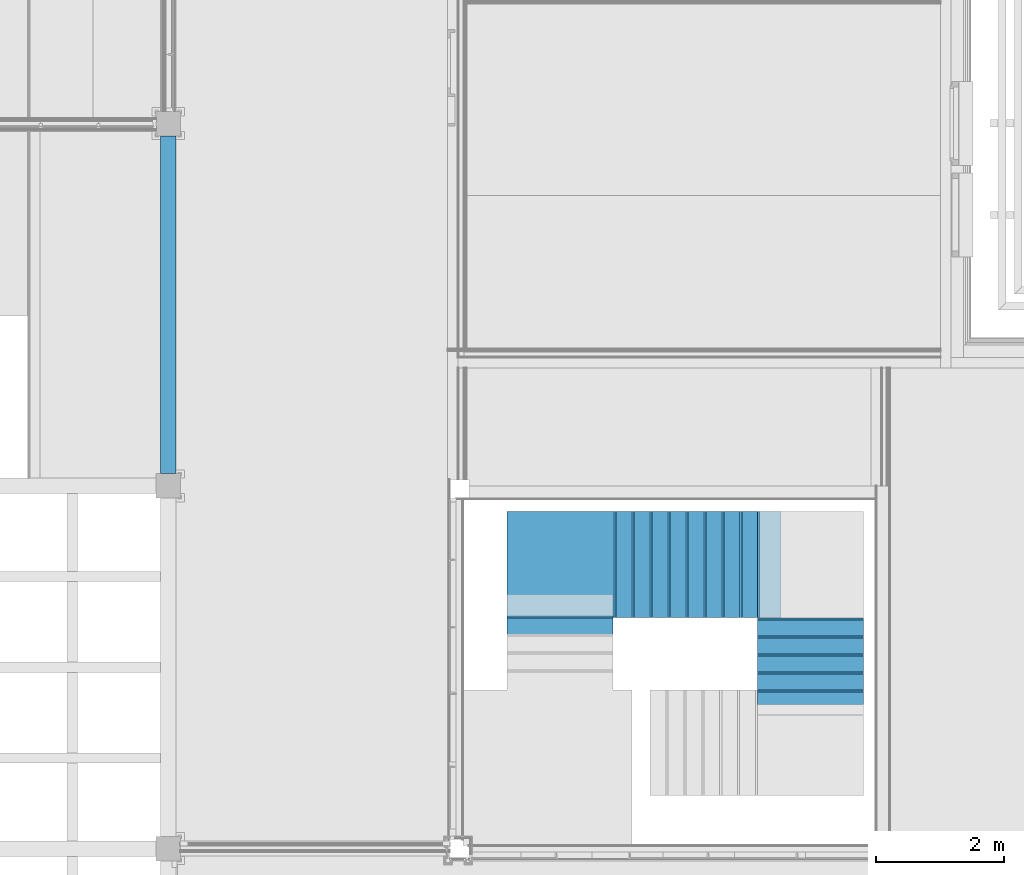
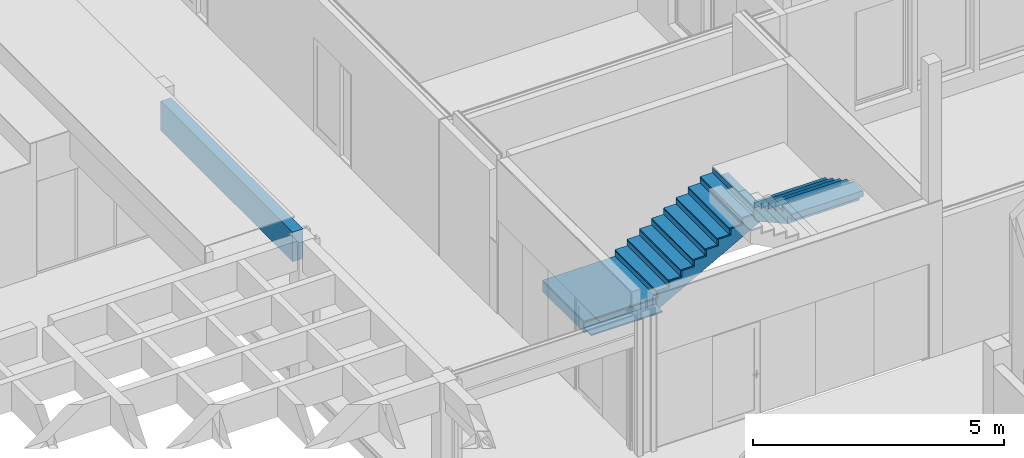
# One storey, part 40 of 139: 32 members, 1 beam, 1 element without a shape of its own.
"""IFC2X3 building model written with IfcOpenShell, lengths in millimetres."""

from ifc_helpers import new_model, entity, si_unit, converted_unit, derived_unit, money_unit, direction, frame, origin_with_axes, place, context, subcontext, project, spatial, faceted_brep, material, type_object, element, aggregate, save


model = new_model("IFC2X3")

# Units and contexts
model_context = context("Model", 3, precision=0.01, world=origin_with_axes(), true_north=direction((0.0, 1.0)))
body_context = subcontext(model_context, "Body", "Model", "MODEL_VIEW")
ifc_project = project(units=[si_unit("LENGTHUNIT", "METRE", prefix="MILLI"), si_unit("AREAUNIT", "SQUARE_METRE"), si_unit("VOLUMEUNIT", "CUBIC_METRE"), converted_unit("PLANEANGLEUNIT", "DEGREE", entity("IfcPlaneAngleMeasure", 0.0174532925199), si_unit("PLANEANGLEUNIT", "RADIAN"), dimensions=[0, 0, 0, 0, 0, 0, 0]), money_unit("EUR"), converted_unit("TIMEUNIT", "Year", entity("IfcTimeMeasure", 31556926.0), si_unit("TIMEUNIT", "SECOND"), dimensions=[0, 0, 1, 0, 0, 0, 0]), si_unit("MASSUNIT", "GRAM", prefix="KILO"), si_unit("THERMODYNAMICTEMPERATUREUNIT", "DEGREE_CELSIUS"), si_unit("LUMINOUSINTENSITYUNIT", "LUMEN"), si_unit("ENERGYUNIT", "JOULE", prefix="MEGA"), derived_unit("THERMALCONDUCTANCEUNIT", [(si_unit("POWERUNIT", "WATT"), 1), (si_unit("LENGTHUNIT", "METRE"), -1), (si_unit("THERMODYNAMICTEMPERATUREUNIT", "KELVIN"), -1)]), derived_unit("SPECIFICHEATCAPACITYUNIT", [(si_unit("ENERGYUNIT", "JOULE"), 1), (si_unit("MASSUNIT", "GRAM", prefix="KILO"), -1), (si_unit("THERMODYNAMICTEMPERATUREUNIT", "KELVIN"), -1)]), derived_unit("MASSDENSITYUNIT", [(si_unit("MASSUNIT", "GRAM", prefix="KILO"), 1), (si_unit("VOLUMEUNIT", "CUBIC_METRE"), -1)])], contexts=[model_context])

# Site, building, storey
site_placement = place(None, origin_with_axes())
site = spatial("IfcSite", under=ifc_project, at=site_placement, Name="Kolde pst 67a", CompositionType="ELEMENT")
building_placement = place(site_placement, origin_with_axes())
building = spatial("IfcBuilding", under=site, at=building_placement, Name="Riigigümnaasium", CompositionType="ELEMENT")
storey_placement = place(building_placement, frame((0.0, 0.0, 4600.0), z_axis=(0.0, 0.0, 1.0), x_axis=(1.0, 0.0, 0.0)))
storey = spatial("IfcBuildingStorey", under=building, at=storey_placement, Name="2. korrus", CompositionType="ELEMENT", Elevation=4600.0)

# Stair, members
stair_placement = place(storey_placement, frame((55074.9941194, 31162.4614213, 0.0), z_axis=(0.0, 0.0, 1.0), x_axis=(1.0, 0.0, 0.0)))
stair = element("IfcStair", 1, at=stair_placement, inside=storey, Name="TREPP", ShapeType="NOTDEFINED")
ifc_material_1 = material(Name="_KANDETARIND - raudbetoon C25/30 vastavalt EK osale")
member_type_1 = type_object("IfcMemberType", Name="IfcMember", PredefinedType="USERDEFINED")
member_1_placement = place(stair_placement, origin_with_axes())
member_1 = element("IfcMember", 2, at=member_1_placement, type_object=member_type_1, material=ifc_material_1, Name="TM KONSTRUKTSIOON - 012", ObjectType="Stair Structure", context=body_context, shape_type="Brep", body=[
    faceted_brep([(109.989916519, 1222.51927635, 593.0), (109.989916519, 2872.51929629, 593.0), (-1557.99539413, 2872.51929629, 593.0), (-1558.15562166, 1247.00698667, 593.0), (89.8080152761, 1247.00698667, 593.0), (89.8065817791, 1222.51927635, 593.0), (109.989916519, 2872.51929629, 343.0), (109.989916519, 1222.51927635, 343.0), (-1557.99539413, 2872.51929629, 343.0), (-1558.15877884, 1215.0069978, 436.75), (-1558.15562166, 1247.00698667, 436.75), (-1558.15879981, 1215.0069978, 343.0), (89.8080152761, 1247.00698667, 436.75), (89.8065817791, 1222.51927635, 436.75), (89.8065787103, 1222.51927635, 343.0), (89.8061226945, 1215.0069978, 343.0), (89.8061420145, 1215.0069978, 436.75)], [[[0, 1, 2, 3, 4, 5]], [[6, 1, 0, 7]], [[1, 6, 8, 2]], [[9, 10, 3, 2, 8, 11]], [[12, 4, 3, 10]], [[13, 5, 4, 12]], [[7, 0, 5, 13, 14]], [[6, 7, 14, 15, 11, 8]], [[9, 16, 13, 12, 10]], [[15, 16, 9, 11]], [[14, 13, 16, 15]]]),
])
member_2_placement = place(stair_placement, origin_with_axes())
member_2 = element("IfcMember", 3, at=member_2_placement, type_object=member_type_1, material=ifc_material_1, Name="TT KONSTRUKTSIOON - 016", ObjectType="Stair Structure", context=body_context, shape_type="Brep", body=[
    faceted_brep([(2349.98991721, 1222.51929532, 1749.25), (2349.98991721, 2872.51928463, 1749.25), (2349.98991721, 2872.51928463, 1843.0), (2349.98991721, 1222.51928463, 1843.0), (2716.76334378, 1222.51929532, 1749.25), (2716.76334378, 2872.51928463, 1749.25), (2349.98991721, 2872.51928463, 1544.57732718), (2256.65658388, 2872.51928463, 1492.49399385), (2163.32325055, 2872.51928463, 1440.41066052), (2069.98991721, 2872.51928463, 1388.32732718), (1976.65658388, 2872.51928463, 1336.24399385), (1883.32325055, 2872.51928463, 1284.16066052), (1789.98991721, 2872.51928463, 1232.07732718), (1696.65658388, 2872.51928463, 1179.99399385), (1603.32325055, 2872.51928463, 1127.91066052), (1509.98991721, 2872.51928463, 1075.82732718), (1416.65658388, 2872.51928463, 1023.74399385), (1323.32325055, 2872.51928463, 971.660660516), (1229.98991721, 2872.51928463, 919.577327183), (1136.65658388, 2872.51928463, 867.49399385), (1043.32325055, 2872.51928463, 815.410660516), (949.989917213, 2872.51928463, 763.327327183), (856.656583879, 2872.51928463, 711.24399385), (763.323250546, 2872.51928463, 659.160660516), (669.989917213, 2872.51928463, 607.077327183), (576.656583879, 2872.51928463, 554.99399385), (483.323250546, 2872.51928463, 502.910660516), (389.989917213, 2872.51928463, 450.827327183), (296.656583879, 2872.51929629, 398.74399385), (203.323250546, 2872.51929629, 346.660660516), (196.7633469, 2872.51929629, 343.0), (109.989917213, 2872.51929439, 343.0), (109.989917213, 2872.51928463, 593.0), (141.989917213, 2872.51928463, 593.0), (141.989917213, 2872.51928463, 749.25), (421.989917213, 2872.51928463, 749.25), (421.989917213, 2872.51928463, 905.5), (701.989917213, 2872.51928463, 905.5), (701.989917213, 2872.51928463, 1061.75), (981.989917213, 2872.51928463, 1061.75), (981.989917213, 2872.51928463, 1218.0), (1261.98991721, 2872.51928463, 1218.0), (1261.98991721, 2872.51928463, 1374.25), (1541.98991721, 2872.51928463, 1374.25), (1541.98991721, 2872.51928463, 1530.5), (1821.98991721, 2872.51928463, 1530.5), (1821.98991721, 2872.51928463, 1686.75), (2101.98991721, 2872.51928463, 1686.75), (2101.98991721, 2872.51928463, 1843.0), (2101.98991721, 1222.51928463, 1843.0), (2101.98991721, 1222.51928463, 1686.75), (1821.98991721, 1222.51928463, 1686.75), (1821.98991721, 1222.51928463, 1530.5), (1541.98991721, 1222.51928463, 1530.5), (1541.98991721, 1222.51928463, 1374.25), (1261.98991721, 1222.51928463, 1374.25), (1261.98991721, 1222.51928463, 1218.0), (981.989917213, 1222.51928463, 1218.0), (981.989917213, 1222.51928463, 1061.75), (701.989917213, 1222.51928463, 1061.75), (701.989917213, 1222.51928463, 905.5), (421.989917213, 1222.51928463, 905.5), (421.989917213, 1222.51928463, 749.25), (141.989917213, 1222.51928463, 749.25), (141.989917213, 1222.51928463, 593.0), (109.989917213, 1222.51928463, 593.0), (109.989917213, 1222.51927769, 343.0), (196.7633469, 1222.51927635, 343.0), (203.323250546, 1222.51927635, 346.660660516), (296.656583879, 1222.51927635, 398.74399385), (389.989917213, 1222.51927635, 450.827327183), (483.323250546, 1222.51928463, 502.910660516), (576.656583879, 1222.51928463, 554.99399385), (669.989917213, 1222.51928463, 607.077327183), (763.323250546, 1222.51928463, 659.160660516), (856.656583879, 1222.51928463, 711.24399385), (949.989917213, 1222.51928463, 763.327327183), (1043.32325055, 1222.51928463, 815.410660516), (1136.65658388, 1222.51928463, 867.49399385), (1229.98991721, 1222.51928463, 919.577327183), (1323.32325055, 1222.51928463, 971.660660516), (1416.65658388, 1222.51928463, 1023.74399385), (1509.98991721, 1222.51928463, 1075.82732718), (1603.32325055, 1222.51928463, 1127.91066052), (1696.65658388, 1222.51928463, 1179.99399385), (1789.98991721, 1222.51928463, 1232.07732718), (1883.32325055, 1222.51928463, 1284.16066052), (1976.65658388, 1222.51928463, 1336.24399385), (2069.98991721, 1222.51928463, 1388.32732718), (2163.32325055, 1222.51928463, 1440.41066052), (2256.65658388, 1222.51928463, 1492.49399385), (2349.98991721, 1222.51929532, 1544.57732718)], [[[0, 1, 2, 3]], [[1, 0, 4, 5]], [[6, 7, 8, 9, 10, 11, 12, 13, 14, 15, 16, 17, 18, 19, 20, 21, 22, 23, 24, 25, 26, 27, 28, 29, 30, 31, 32, 33, 34, 35, 36, 37, 38, 39, 40, 41, 42, 43, 44, 45, 46, 47, 48, 2, 1, 5]], [[3, 2, 48, 49]], [[0, 3, 49, 50, 51, 52, 53, 54, 55, 56, 57, 58, 59, 60, 61, 62, 63, 64, 65, 66, 67, 68, 69, 70, 71, 72, 73, 74, 75, 76, 77, 78, 79, 80, 81, 82, 83, 84, 85, 86, 87, 88, 89, 90, 91, 4]], [[91, 90, 7, 6, 5, 4]], [[89, 8, 7, 90]], [[88, 9, 8, 89]], [[87, 10, 9, 88]], [[86, 11, 10, 87]], [[85, 12, 11, 86]], [[84, 13, 12, 85]], [[83, 14, 13, 84]], [[82, 15, 14, 83]], [[81, 16, 15, 82]], [[80, 17, 16, 81]], [[79, 18, 17, 80]], [[78, 19, 18, 79]], [[77, 20, 19, 78]], [[76, 21, 20, 77]], [[75, 22, 21, 76]], [[74, 23, 22, 75]], [[73, 24, 23, 74]], [[72, 25, 24, 73]], [[71, 26, 25, 72]], [[70, 27, 26, 71]], [[69, 28, 27, 70]], [[68, 29, 28, 69]], [[67, 30, 29, 68]], [[66, 31, 30, 67]], [[31, 66, 65, 32]], [[65, 64, 33, 32]], [[33, 64, 63, 34]], [[34, 63, 62, 35]], [[35, 62, 61, 36]], [[36, 61, 60, 37]], [[37, 60, 59, 38]], [[38, 59, 58, 39]], [[39, 58, 57, 40]], [[40, 57, 56, 41]], [[41, 56, 55, 42]], [[42, 55, 54, 43]], [[43, 54, 53, 44]], [[44, 53, 52, 45]], [[45, 52, 51, 46]], [[46, 51, 50, 47]], [[47, 50, 49, 48]]]),
])
member_3_placement = place(stair_placement, origin_with_axes())
member_3 = element("IfcMember", 4, at=member_3_placement, type_object=member_type_1, material=ifc_material_1, Name="TT KONSTRUKTSIOON - 017", ObjectType="Stair Structure", context=body_context, shape_type="Brep", body=[
    faceted_brep([(3999.95412159, 343.0, 2468.0), (2349.98991721, 343.0, 2468.0), (2349.98991721, 343.0, 2624.25), (3999.95412159, 343.0, 2624.25), (3999.95412159, 623.0, 2468.0), (2349.98991721, 623.0, 2468.0), (2349.98990534, 94.9999971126, 2624.25), (2349.98991721, 623.0, 2311.75), (2349.98991721, 903.0, 2311.75), (2349.98991721, 903.0, 2155.5), (2349.98991721, 1183.0, 2155.5), (2349.98991721, 1183.0, 1999.25), (2349.98991721, 1215.0, 1999.25), (2349.98991721, 1215.0, 1749.25), (2349.98991721, 1117.96588807, 1749.25), (2349.98991721, 1028.33333333, 1799.26816671), (2349.98991721, 935.0, 1851.35150004), (2349.98991721, 841.666666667, 1903.43483337), (2349.98991721, 748.333333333, 1955.51816671), (2349.98991721, 655.0, 2007.60150004), (2349.98991721, 561.666666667, 2059.68483337), (2349.98991721, 468.333333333, 2111.76816671), (2349.98991721, 375.0, 2163.85150004), (2349.98991721, 281.666666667, 2215.93483337), (2349.98991721, 188.333333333, 2268.01816671), (2349.98991479, 94.9999971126, 2320.10150165), (2349.98991479, -135.00000579, 2448.44971756), (2349.98991214, -135.00000579, 2630.5), (2349.98991479, -295.000014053, 2630.5), (2349.98991479, -295.000014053, 2780.5), (2349.98990398, 63.0000026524, 2780.5), (2349.98990398, 63.0000026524, 2624.25), (3999.95411669, 94.9999971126, 2624.25), (3999.95411613, 63.0000026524, 2624.25), (3999.95412159, 94.9999971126, 2320.10150165), (3999.95412159, 188.333333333, 2268.01816671), (3999.95412159, 281.666666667, 2215.93483337), (3999.95412159, 375.0, 2163.85150004), (3999.95412159, 468.333333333, 2111.76816671), (3999.95412159, 561.666666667, 2059.68483337), (3999.95412159, 655.0, 2007.60150004), (3999.95412159, 748.333333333, 1955.51816671), (3999.95412159, 841.666666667, 1903.43483337), (3999.95412159, 935.0, 1851.35150004), (3999.95413168, 1028.33333333, 1799.26816671), (3999.95413168, 1117.96588807, 1749.25), (3999.95412988, 1215.0, 1749.25), (3999.95412159, 1215.0, 1999.25), (3999.95412159, 1183.0, 1999.25), (3999.95412159, 1183.0, 2155.5), (3999.95412159, 903.0, 2155.5), (3999.95412159, 903.0, 2311.75), (3999.95412159, 623.0, 2311.75), (3999.95411613, 63.0000026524, 2780.5), (3999.95412159, -295.000014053, 2780.5), (3999.95412159, -295.000014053, 2630.5), (3999.95412025, -135.00000579, 2630.5), (3999.95412159, -135.00000579, 2448.44971756)], [[[0, 1, 2, 3]], [[0, 4, 5, 1]], [[6, 2, 1, 5, 7, 8, 9, 10, 11, 12, 13, 14, 15, 16, 17, 18, 19, 20, 21, 22, 23, 24, 25, 26, 27, 28, 29, 30, 31]], [[32, 3, 2, 6, 31, 33]], [[34, 35, 36, 37, 38, 39, 40, 41, 42, 43, 44, 45, 46, 47, 48, 49, 50, 51, 52, 4, 0, 3, 32, 33, 53, 54, 55, 56, 57]], [[52, 7, 5, 4]], [[52, 51, 8, 7]], [[50, 9, 8, 51]], [[50, 49, 10, 9]], [[48, 11, 10, 49]], [[12, 11, 48, 47]], [[46, 13, 12, 47]], [[13, 46, 45, 14]], [[14, 45, 44, 15]], [[15, 44, 43, 16]], [[16, 43, 42, 17]], [[17, 42, 41, 18]], [[18, 41, 40, 19]], [[19, 40, 39, 20]], [[20, 39, 38, 21]], [[21, 38, 37, 22]], [[22, 37, 36, 23]], [[23, 36, 35, 24]], [[25, 24, 35, 34, 57, 26]], [[26, 57, 56, 27]], [[27, 56, 55, 28]], [[29, 28, 55, 54]], [[29, 54, 53, 30]], [[33, 31, 30, 53]]]),
])
ifc_material_2 = material(Name="_VIIMISTLUSKIHT - viimistlus vastavalt SA osale")
member_type_2 = type_object("IfcMemberType", Name="IfcMember", PredefinedType="USERDEFINED")
member_4_placement = place(stair_placement, frame((-735.193427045, 1215.0069978, 593.0), z_axis=(0.0, 0.0, 1.0), x_axis=(1.0, 0.0, 0.0)))
member_4 = element("IfcMember", 5, at=member_4_placement, type_object=member_type_2, material=ifc_material_2, Name="SL RISER - 012", ObjectType="Stair Riser", context=body_context, shape_type="Brep", body=[
    faceted_brep([(824.999560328, 0.0, 0.0), (825.001433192, 32.0, 0.0), (-822.962217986, 32.0, 0.0), (-822.965372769, 0.0, 0.0), (824.999560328, 0.0, -124.25), (825.001433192, 32.0, -124.25), (-822.962217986, 32.0, -124.25), (-822.965372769, 0.0, -124.25)], [[[0, 1, 2, 3]], [[0, 4, 5, 1]], [[1, 5, 6, 2]], [[3, 2, 6, 7]], [[4, 0, 3, 7]], [[5, 4, 7, 6]]]),
])
member_5_placement = place(stair_placement, frame((109.989917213, 2047.51928463, 749.25), z_axis=(0.0, 0.0, 1.0), x_axis=(0.0, -1.0, 0.0)))
member_5 = element("IfcMember", 6, at=member_5_placement, type_object=member_type_2, material=ifc_material_2, Name="TV TÕUS - 113", ObjectType="Stair Riser", context=body_context, shape_type="Brep", body=[
    faceted_brep([(825.0, 0.0, 0.0), (825.0, 32.0, 0.0), (-825.0, 32.0, 0.0), (-825.0, 0.0, 0.0), (825.0, 0.0, -124.25), (825.0, 32.0, -124.25), (-825.0, 32.0, -124.25), (-825.0, 0.0, -124.25)], [[[0, 1, 2, 3]], [[0, 4, 5, 1]], [[1, 5, 6, 2]], [[3, 2, 6, 7]], [[4, 0, 3, 7]], [[5, 4, 7, 6]]]),
])
member_6_placement = place(stair_placement, frame((389.989917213, 2047.51928463, 905.5), z_axis=(0.0, 0.0, 1.0), x_axis=(0.0, -1.0, 0.0)))
member_6 = element("IfcMember", 7, at=member_6_placement, type_object=member_type_2, material=ifc_material_2, Name="TV TÕUS - 114", ObjectType="Stair Riser", context=body_context, shape_type="Brep", body=[
    faceted_brep([(825.0, 0.0, 0.0), (825.0, 32.0, 0.0), (-825.0, 32.0, 0.0), (-825.0, 0.0, 0.0), (825.0, 0.0, -124.25), (825.0, 32.0, -124.25), (-825.0, 32.0, -124.25), (-825.0, 0.0, -124.25)], [[[0, 1, 2, 3]], [[0, 4, 5, 1]], [[1, 5, 6, 2]], [[3, 2, 6, 7]], [[4, 0, 3, 7]], [[5, 4, 7, 6]]]),
])
member_7_placement = place(stair_placement, frame((669.989917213, 2047.51928463, 1061.75), z_axis=(0.0, 0.0, 1.0), x_axis=(0.0, -1.0, 0.0)))
member_7 = element("IfcMember", 8, at=member_7_placement, type_object=member_type_2, material=ifc_material_2, Name="TV TÕUS - 115", ObjectType="Stair Riser", context=body_context, shape_type="Brep", body=[
    faceted_brep([(825.0, 0.0, 0.0), (825.0, 32.0, 0.0), (-825.0, 32.0, 0.0), (-825.0, 0.0, 0.0), (825.0, 0.0, -124.25), (825.0, 32.0, -124.25), (-825.0, 32.0, -124.25), (-825.0, 0.0, -124.25)], [[[0, 1, 2, 3]], [[0, 4, 5, 1]], [[1, 5, 6, 2]], [[3, 2, 6, 7]], [[4, 0, 3, 7]], [[5, 4, 7, 6]]]),
])
member_8_placement = place(stair_placement, frame((949.989917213, 2047.51928463, 1218.0), z_axis=(0.0, 0.0, 1.0), x_axis=(0.0, -1.0, 0.0)))
member_8 = element("IfcMember", 9, at=member_8_placement, type_object=member_type_2, material=ifc_material_2, Name="TV TÕUS - 116", ObjectType="Stair Riser", context=body_context, shape_type="Brep", body=[
    faceted_brep([(825.0, 0.0, 0.0), (825.0, 32.0, 0.0), (-825.0, 32.0, 0.0), (-825.0, 0.0, 0.0), (825.0, 0.0, -124.25), (825.0, 32.0, -124.25), (-825.0, 32.0, -124.25), (-825.0, 0.0, -124.25)], [[[0, 1, 2, 3]], [[0, 4, 5, 1]], [[1, 5, 6, 2]], [[3, 2, 6, 7]], [[4, 0, 3, 7]], [[5, 4, 7, 6]]]),
])
member_9_placement = place(stair_placement, frame((1229.98991721, 2047.51928463, 1374.25), z_axis=(0.0, 0.0, 1.0), x_axis=(0.0, -1.0, 0.0)))
member_9 = element("IfcMember", 10, at=member_9_placement, type_object=member_type_2, material=ifc_material_2, Name="TV TÕUS - 117", ObjectType="Stair Riser", context=body_context, shape_type="Brep", body=[
    faceted_brep([(825.0, 0.0, 0.0), (825.0, 32.0, 0.0), (-825.0, 32.0, 0.0), (-825.0, 0.0, 0.0), (825.0, 0.0, -124.25), (825.0, 32.0, -124.25), (-825.0, 32.0, -124.25), (-825.0, 0.0, -124.25)], [[[0, 1, 2, 3]], [[0, 4, 5, 1]], [[1, 5, 6, 2]], [[3, 2, 6, 7]], [[4, 0, 3, 7]], [[5, 4, 7, 6]]]),
])
member_10_placement = place(stair_placement, frame((1509.98991721, 2047.51928463, 1530.5), z_axis=(0.0, 0.0, 1.0), x_axis=(0.0, -1.0, 0.0)))
member_10 = element("IfcMember", 11, at=member_10_placement, type_object=member_type_2, material=ifc_material_2, Name="TV TÕUS - 118", ObjectType="Stair Riser", context=body_context, shape_type="Brep", body=[
    faceted_brep([(825.0, 0.0, 0.0), (825.0, 32.0, 0.0), (-825.0, 32.0, 0.0), (-825.0, 0.0, 0.0), (825.0, 0.0, -124.25), (825.0, 32.0, -124.25), (-825.0, 32.0, -124.25), (-825.0, 0.0, -124.25)], [[[0, 1, 2, 3]], [[0, 4, 5, 1]], [[1, 5, 6, 2]], [[3, 2, 6, 7]], [[4, 0, 3, 7]], [[5, 4, 7, 6]]]),
])
member_11_placement = place(stair_placement, frame((1789.98991721, 2047.51928463, 1686.75), z_axis=(0.0, 0.0, 1.0), x_axis=(0.0, -1.0, 0.0)))
member_11 = element("IfcMember", 12, at=member_11_placement, type_object=member_type_2, material=ifc_material_2, Name="TV TÕUS - 119", ObjectType="Stair Riser", context=body_context, shape_type="Brep", body=[
    faceted_brep([(825.0, 0.0, 0.0), (825.0, 32.0, 0.0), (-825.0, 32.0, 0.0), (-825.0, 0.0, 0.0), (825.0, 0.0, -124.25), (825.0, 32.0, -124.25), (-825.0, 32.0, -124.25), (-825.0, 0.0, -124.25)], [[[0, 1, 2, 3]], [[0, 4, 5, 1]], [[1, 5, 6, 2]], [[3, 2, 6, 7]], [[4, 0, 3, 7]], [[5, 4, 7, 6]]]),
])
member_12_placement = place(stair_placement, frame((2069.98991721, 2047.51928463, 1843.0), z_axis=(0.0, 0.0, 1.0), x_axis=(0.0, -1.0, 0.0)))
member_12 = element("IfcMember", 13, at=member_12_placement, type_object=member_type_2, material=ifc_material_2, Name="TV TÕUS - 120", ObjectType="Stair Riser", context=body_context, shape_type="Brep", body=[
    faceted_brep([(825.0, 0.0, 0.0), (825.0, 32.0, 0.0), (-825.0, 32.0, 0.0), (-825.0, 0.0, 0.0), (825.0, 0.0, -124.25), (825.0, 32.0, -124.25), (-825.0, 32.0, -124.25), (-825.0, 0.0, -124.25)], [[[0, 1, 2, 3]], [[0, 4, 5, 1]], [[1, 5, 6, 2]], [[3, 2, 6, 7]], [[4, 0, 3, 7]], [[5, 4, 7, 6]]]),
])
member_13_placement = place(stair_placement, frame((2349.98991721, 2047.51928463, 1999.25), z_axis=(0.0, 0.0, 1.0), x_axis=(0.0, -1.0, 0.0)))
member_13 = element("IfcMember", 14, at=member_13_placement, type_object=member_type_2, material=ifc_material_2, Name="SL RISER - 013", ObjectType="Stair Riser", context=body_context, shape_type="Brep", body=[
    faceted_brep([(825.0, 0.0, 0.0), (825.0, 32.0, 0.0), (-825.0, 32.0, 0.0), (-825.0, 0.0, 0.0), (825.0, 0.0, -124.25), (825.0, 32.0, -124.25), (-825.0, 32.0, -124.25), (-825.0, 0.0, -124.25)], [[[0, 1, 2, 3]], [[0, 4, 5, 1]], [[1, 5, 6, 2]], [[3, 2, 6, 7]], [[4, 0, 3, 7]], [[5, 4, 7, 6]]]),
])
member_14_placement = place(stair_placement, frame((3174.98991721, 1215.0, 2155.5), z_axis=(0.0, 0.0, 1.0), x_axis=(-1.0, 0.0, 0.0)))
member_14 = element("IfcMember", 15, at=member_14_placement, type_object=member_type_2, material=ifc_material_2, Name="TV TÕUS - 121", ObjectType="Stair Riser", context=body_context, shape_type="Brep", body=[
    faceted_brep([(825.0, 0.0, 0.0), (825.0, 32.0, 0.0), (-824.964204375, 32.0, 0.0), (-824.964204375, 0.0, 0.0), (825.0, 0.0, -124.25), (825.0, 32.0, -124.25), (-824.964204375, 32.0, -124.25), (-824.964204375, 0.0, -124.25)], [[[0, 1, 2, 3]], [[0, 4, 5, 1]], [[1, 5, 6, 2]], [[3, 2, 6, 7]], [[4, 0, 3, 7]], [[5, 4, 7, 6]]]),
])
member_15_placement = place(stair_placement, frame((3174.98991721, 935.0, 2311.75), z_axis=(0.0, 0.0, 1.0), x_axis=(-1.0, 0.0, 0.0)))
member_15 = element("IfcMember", 16, at=member_15_placement, type_object=member_type_2, material=ifc_material_2, Name="TV TÕUS - 122", ObjectType="Stair Riser", context=body_context, shape_type="Brep", body=[
    faceted_brep([(825.0, 0.0, 0.0), (825.0, 32.0, 0.0), (-824.964204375, 32.0, 0.0), (-824.964204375, 0.0, 0.0), (825.0, 0.0, -124.25), (825.0, 32.0, -124.25), (-824.964204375, 32.0, -124.25), (-824.964204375, 0.0, -124.25)], [[[0, 1, 2, 3]], [[0, 4, 5, 1]], [[1, 5, 6, 2]], [[3, 2, 6, 7]], [[4, 0, 3, 7]], [[5, 4, 7, 6]]]),
])
member_16_placement = place(stair_placement, frame((3174.98991721, 655.0, 2468.0), z_axis=(0.0, 0.0, 1.0), x_axis=(-1.0, 0.0, 0.0)))
member_16 = element("IfcMember", 17, at=member_16_placement, type_object=member_type_2, material=ifc_material_2, Name="TV TÕUS - 123", ObjectType="Stair Riser", context=body_context, shape_type="Brep", body=[
    faceted_brep([(825.0, 0.0, 0.0), (825.0, 32.0, 0.0), (-824.964204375, 32.0, 0.0), (-824.964204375, 0.0, 0.0), (825.0, 0.0, -124.25), (825.0, 32.0, -124.25), (-824.964204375, 32.0, -124.25), (-824.964204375, 0.0, -124.25)], [[[0, 1, 2, 3]], [[0, 4, 5, 1]], [[1, 5, 6, 2]], [[3, 2, 6, 7]], [[4, 0, 3, 7]], [[5, 4, 7, 6]]]),
])
member_17_placement = place(stair_placement, frame((3174.98991721, 375.0, 2624.25), z_axis=(0.0, 0.0, 1.0), x_axis=(-1.0, 0.0, 0.0)))
member_17 = element("IfcMember", 18, at=member_17_placement, type_object=member_type_2, material=ifc_material_2, Name="TV TÕUS - 124", ObjectType="Stair Riser", context=body_context, shape_type="Brep", body=[
    faceted_brep([(825.0, 0.0, 0.0), (825.0, 32.0, 0.0), (-824.964204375, 32.0, 0.0), (-824.964204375, 0.0, 0.0), (825.0, 0.0, -124.25), (825.0, 32.0, -124.25), (-824.964204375, 32.0, -124.25), (-824.964204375, 0.0, -124.25)], [[[0, 1, 2, 3]], [[0, 4, 5, 1]], [[1, 5, 6, 2]], [[3, 2, 6, 7]], [[4, 0, 3, 7]], [[5, 4, 7, 6]]]),
])
member_18_placement = place(stair_placement, frame((3174.98991721, 95.0, 2780.5), z_axis=(0.0, 0.0, 1.0), x_axis=(-1.0, 0.0, 0.0)))
member_18 = element("IfcMember", 19, at=member_18_placement, type_object=member_type_2, material=ifc_material_2, Name="SL RISER - 014", ObjectType="Stair Riser", context=body_context, shape_type="Brep", body=[
    faceted_brep([(825.0, 0.0, 0.0), (825.0, 32.0, 0.0), (-824.964204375, 32.0, 0.0), (-824.964204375, 0.0, 0.0), (825.0, 0.0, -124.25), (825.0, 32.0, -124.25), (-824.964204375, 32.0, -124.25), (-824.964204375, 0.0, -124.25)], [[[0, 1, 2, 3]], [[0, 4, 5, 1]], [[1, 5, 6, 2]], [[3, 2, 6, 7]], [[4, 0, 3, 7]], [[5, 4, 7, 6]]]),
])
member_type_3 = type_object("IfcMemberType", Name="IfcMember", PredefinedType="USERDEFINED")
member_19_placement = place(stair_placement, frame((-735.193427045, 935.006997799, 468.75), z_axis=(0.0, 0.0, 1.0), x_axis=(1.0, 0.0, 0.0)))
member_19 = element("IfcMember", 20, at=member_19_placement, type_object=member_type_3, material=ifc_material_2, Name="TV ASTE - 113", ObjectType="Stair Tread", context=body_context, shape_type="Brep", body=[
    faceted_brep([(-822.992977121, 0.0, -32.0), (824.98317277, 0.0, -32.0), (824.98317277, 0.0, 0.0), (-822.992977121, 0.0, 0.0), (-822.962217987, 311.99999452, -32.0), (824.999557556, 311.999994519, -32.0), (825.0, 287.51228661, -32.0), (825.0, 287.51228661, 0.0), (824.999557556, 311.999994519, 0.0), (-822.962217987, 311.99999452, 0.0)], [[[0, 1, 2, 3]], [[0, 4, 5, 6, 1]], [[1, 6, 7, 2]], [[3, 2, 7, 8, 9]], [[4, 0, 3, 9]], [[5, 4, 9, 8]], [[6, 5, 8, 7]]]),
])
member_20_placement = place(stair_placement, frame((-735.193427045, 1215.0069978, 625.0), z_axis=(0.0, 0.0, 1.0), x_axis=(1.0, 0.0, 0.0)))
member_20 = element("IfcMember", 21, at=member_20_placement, type_object=member_type_3, material=ifc_material_2, Name="SL TREAD - 012", ObjectType="Stair Tread", context=body_context, shape_type="Brep", body=[
    faceted_brep([(-822.965372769, 0.0, -32.0), (824.999560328, 0.0, -32.0), (824.999560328, 0.0, 0.0), (-822.965372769, 0.0, 0.0), (-822.801963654, 1657.51228683, -32.0), (877.183344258, 1657.51228683, -32.0), (877.183344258, 7.51228682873, -32.0), (825.0, 7.51228682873, -32.0), (825.0, 7.51228682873, 0.0), (877.183344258, 7.51228682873, 0.0), (877.183344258, 1657.51228683, 0.0), (-822.801963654, 1657.51228683, 0.0)], [[[0, 1, 2, 3]], [[0, 4, 5, 6, 7, 1]], [[1, 7, 8, 2]], [[3, 2, 8, 9, 10, 11]], [[4, 0, 3, 11]], [[5, 4, 11, 10]], [[6, 5, 10, 9]], [[7, 6, 9, 8]]]),
])
member_21_placement = place(stair_placement, frame((109.989917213, 2047.51928463, 781.25), z_axis=(0.0, 0.0, 1.0), x_axis=(0.0, -1.0, 0.0)))
member_21 = element("IfcMember", 22, at=member_21_placement, type_object=member_type_3, material=ifc_material_2, Name="TV ASTE - 114", ObjectType="Stair Tread", context=body_context, shape_type="Brep", body=[
    faceted_brep([(-825.0, 0.0, -32.0), (825.0, 0.0, -32.0), (825.0, 0.0, 0.0), (-825.0, 0.0, 0.0), (-825.0, 312.0, -32.0), (825.0, 312.0, -32.0), (825.0, 312.0, 0.0), (-825.0, 312.0, 0.0)], [[[0, 1, 2, 3]], [[0, 4, 5, 1]], [[1, 5, 6, 2]], [[3, 2, 6, 7]], [[4, 0, 3, 7]], [[5, 4, 7, 6]]]),
])
member_22_placement = place(stair_placement, frame((389.989917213, 2047.51928463, 937.5), z_axis=(0.0, 0.0, 1.0), x_axis=(0.0, -1.0, 0.0)))
member_22 = element("IfcMember", 23, at=member_22_placement, type_object=member_type_3, material=ifc_material_2, Name="TV ASTE - 115", ObjectType="Stair Tread", context=body_context, shape_type="Brep", body=[
    faceted_brep([(-825.0, 0.0, -32.0), (825.0, 0.0, -32.0), (825.0, 0.0, 0.0), (-825.0, 0.0, 0.0), (-825.0, 312.0, -32.0), (825.0, 312.0, -32.0), (825.0, 312.0, 0.0), (-825.0, 312.0, 0.0)], [[[0, 1, 2, 3]], [[0, 4, 5, 1]], [[1, 5, 6, 2]], [[3, 2, 6, 7]], [[4, 0, 3, 7]], [[5, 4, 7, 6]]]),
])
member_23_placement = place(stair_placement, frame((669.989917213, 2047.51928463, 1093.75), z_axis=(0.0, 0.0, 1.0), x_axis=(0.0, -1.0, 0.0)))
member_23 = element("IfcMember", 24, at=member_23_placement, type_object=member_type_3, material=ifc_material_2, Name="TV ASTE - 116", ObjectType="Stair Tread", context=body_context, shape_type="Brep", body=[
    faceted_brep([(-825.0, 0.0, -32.0), (825.0, 0.0, -32.0), (825.0, 0.0, 0.0), (-825.0, 0.0, 0.0), (-825.0, 312.0, -32.0), (825.0, 312.0, -32.0), (825.0, 312.0, 0.0), (-825.0, 312.0, 0.0)], [[[0, 1, 2, 3]], [[0, 4, 5, 1]], [[1, 5, 6, 2]], [[3, 2, 6, 7]], [[4, 0, 3, 7]], [[5, 4, 7, 6]]]),
])
member_24_placement = place(stair_placement, frame((949.989917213, 2047.51928463, 1250.0), z_axis=(0.0, 0.0, 1.0), x_axis=(0.0, -1.0, 0.0)))
member_24 = element("IfcMember", 25, at=member_24_placement, type_object=member_type_3, material=ifc_material_2, Name="TV ASTE - 117", ObjectType="Stair Tread", context=body_context, shape_type="Brep", body=[
    faceted_brep([(-825.0, 0.0, -32.0), (825.0, 0.0, -32.0), (825.0, 0.0, 0.0), (-825.0, 0.0, 0.0), (-825.0, 312.0, -32.0), (825.0, 312.0, -32.0), (825.0, 312.0, 0.0), (-825.0, 312.0, 0.0)], [[[0, 1, 2, 3]], [[0, 4, 5, 1]], [[1, 5, 6, 2]], [[3, 2, 6, 7]], [[4, 0, 3, 7]], [[5, 4, 7, 6]]]),
])
member_25_placement = place(stair_placement, frame((1229.98991721, 2047.51928463, 1406.25), z_axis=(0.0, 0.0, 1.0), x_axis=(0.0, -1.0, 0.0)))
member_25 = element("IfcMember", 26, at=member_25_placement, type_object=member_type_3, material=ifc_material_2, Name="TV ASTE - 118", ObjectType="Stair Tread", context=body_context, shape_type="Brep", body=[
    faceted_brep([(-825.0, 0.0, -32.0), (825.0, 0.0, -32.0), (825.0, 0.0, 0.0), (-825.0, 0.0, 0.0), (-825.0, 312.0, -32.0), (825.0, 312.0, -32.0), (825.0, 312.0, 0.0), (-825.0, 312.0, 0.0)], [[[0, 1, 2, 3]], [[0, 4, 5, 1]], [[1, 5, 6, 2]], [[3, 2, 6, 7]], [[4, 0, 3, 7]], [[5, 4, 7, 6]]]),
])
member_26_placement = place(stair_placement, frame((1509.98991721, 2047.51928463, 1562.5), z_axis=(0.0, 0.0, 1.0), x_axis=(0.0, -1.0, 0.0)))
member_26 = element("IfcMember", 27, at=member_26_placement, type_object=member_type_3, material=ifc_material_2, Name="TV ASTE - 119", ObjectType="Stair Tread", context=body_context, shape_type="Brep", body=[
    faceted_brep([(-825.0, 0.0, -32.0), (825.0, 0.0, -32.0), (825.0, 0.0, 0.0), (-825.0, 0.0, 0.0), (-825.0, 312.0, -32.0), (825.0, 312.0, -32.0), (825.0, 312.0, 0.0), (-825.0, 312.0, 0.0)], [[[0, 1, 2, 3]], [[0, 4, 5, 1]], [[1, 5, 6, 2]], [[3, 2, 6, 7]], [[4, 0, 3, 7]], [[5, 4, 7, 6]]]),
])
member_27_placement = place(stair_placement, frame((1789.98991721, 2047.51928463, 1718.75), z_axis=(0.0, 0.0, 1.0), x_axis=(0.0, -1.0, 0.0)))
member_27 = element("IfcMember", 28, at=member_27_placement, type_object=member_type_3, material=ifc_material_2, Name="TV ASTE - 120", ObjectType="Stair Tread", context=body_context, shape_type="Brep", body=[
    faceted_brep([(-825.0, 0.0, -32.0), (825.0, 0.0, -32.0), (825.0, 0.0, 0.0), (-825.0, 0.0, 0.0), (-825.0, 312.0, -32.0), (825.0, 312.0, -32.0), (825.0, 312.0, 0.0), (-825.0, 312.0, 0.0)], [[[0, 1, 2, 3]], [[0, 4, 5, 1]], [[1, 5, 6, 2]], [[3, 2, 6, 7]], [[4, 0, 3, 7]], [[5, 4, 7, 6]]]),
])
member_28_placement = place(stair_placement, frame((2069.98991721, 2047.51928463, 1875.0), z_axis=(0.0, 0.0, 1.0), x_axis=(0.0, -1.0, 0.0)))
member_28 = element("IfcMember", 29, at=member_28_placement, type_object=member_type_3, material=ifc_material_2, Name="TV ASTE - 121", ObjectType="Stair Tread", context=body_context, shape_type="Brep", body=[
    faceted_brep([(-825.0, 0.0, -32.0), (825.0, 0.0, -32.0), (825.0, 0.0, 0.0), (-825.0, 0.0, 0.0), (-825.0, 312.0, -32.0), (825.0, 312.0, -32.0), (825.0, 280.0, -32.0), (825.0, 280.0, 0.0), (825.0, 312.0, 0.0), (-825.0, 312.0, 0.0)], [[[0, 1, 2, 3]], [[0, 4, 5, 6, 1]], [[1, 6, 7, 2]], [[3, 2, 7, 8, 9]], [[4, 0, 3, 9]], [[5, 4, 9, 8]], [[6, 5, 8, 7]]]),
])
member_29_placement = place(stair_placement, frame((3174.98991721, 1215.0, 2187.5), z_axis=(0.0, 0.0, 1.0), x_axis=(-1.0, 0.0, 0.0)))
member_29 = element("IfcMember", 30, at=member_29_placement, type_object=member_type_3, material=ifc_material_2, Name="TV ASTE - 122", ObjectType="Stair Tread", context=body_context, shape_type="Brep", body=[
    faceted_brep([(-824.964204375, 0.0, -32.0), (825.0, 0.0, -32.0), (825.0, 0.0, 0.0), (-824.964204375, 0.0, 0.0), (-824.964204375, 312.0, -32.0), (825.0, 312.0, -32.0), (825.0, 312.0, 0.0), (-824.964204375, 312.0, 0.0)], [[[0, 1, 2, 3]], [[0, 4, 5, 1]], [[1, 5, 6, 2]], [[3, 2, 6, 7]], [[4, 0, 3, 7]], [[5, 4, 7, 6]]]),
])
member_30_placement = place(stair_placement, frame((3174.98991721, 935.0, 2343.75), z_axis=(0.0, 0.0, 1.0), x_axis=(-1.0, 0.0, 0.0)))
member_30 = element("IfcMember", 31, at=member_30_placement, type_object=member_type_3, material=ifc_material_2, Name="TV ASTE - 123", ObjectType="Stair Tread", context=body_context, shape_type="Brep", body=[
    faceted_brep([(-824.964204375, 0.0, -32.0), (825.0, 0.0, -32.0), (825.0, 0.0, 0.0), (-824.964204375, 0.0, 0.0), (-824.964204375, 312.0, -32.0), (825.0, 312.0, -32.0), (825.0, 312.0, 0.0), (-824.964204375, 312.0, 0.0)], [[[0, 1, 2, 3]], [[0, 4, 5, 1]], [[1, 5, 6, 2]], [[3, 2, 6, 7]], [[4, 0, 3, 7]], [[5, 4, 7, 6]]]),
])
member_31_placement = place(stair_placement, frame((3174.98991721, 655.0, 2500.0), z_axis=(0.0, 0.0, 1.0), x_axis=(-1.0, 0.0, 0.0)))
member_31 = element("IfcMember", 32, at=member_31_placement, type_object=member_type_3, material=ifc_material_2, Name="TV ASTE - 124", ObjectType="Stair Tread", context=body_context, shape_type="Brep", body=[
    faceted_brep([(-824.964204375, 0.0, -32.0), (825.0, 0.0, -32.0), (825.0, 0.0, 0.0), (-824.964204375, 0.0, 0.0), (-824.964204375, 312.0, -32.0), (825.0, 312.0, -32.0), (825.0, 312.0, 0.0), (-824.964204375, 312.0, 0.0)], [[[0, 1, 2, 3]], [[0, 4, 5, 1]], [[1, 5, 6, 2]], [[3, 2, 6, 7]], [[4, 0, 3, 7]], [[5, 4, 7, 6]]]),
])
member_32_placement = place(stair_placement, frame((3174.98991721, 375.0, 2656.25), z_axis=(0.0, 0.0, 1.0), x_axis=(-1.0, 0.0, 0.0)))
member_32 = element("IfcMember", 33, at=member_32_placement, type_object=member_type_3, material=ifc_material_2, Name="TV ASTE - 125", ObjectType="Stair Tread", context=body_context, shape_type="Brep", body=[
    faceted_brep([(-824.964204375, 0.0, -32.0), (825.0, 0.0, -32.0), (825.0, 0.0, 0.0), (-824.964204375, 0.0, 0.0), (-824.964204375, 312.0, -32.0), (825.0, 312.0, -32.0), (825.0, 280.0, -32.0), (825.0, 280.0, 0.0), (825.0, 312.0, 0.0), (-824.964204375, 312.0, 0.0)], [[[0, 1, 2, 3]], [[0, 4, 5, 6, 1]], [[1, 6, 7, 2]], [[3, 2, 7, 8, 9]], [[4, 0, 3, 9]], [[5, 4, 9, 8]], [[6, 5, 8, 7]]]),
])
aggregate(stair, [member_1, member_2, member_3, member_4, member_5, member_6, member_7, member_8, member_9, member_10, member_11, member_12, member_13, member_14, member_15, member_16, member_17, member_18, member_19, member_20, member_21, member_22, member_23, member_24, member_25, member_26, member_27, member_28, member_29, member_30, member_31, member_32])

# Beam
ifc_material_3 = material(Name="_KANDETARIND - liimpuit vastavalt EK osale")
beam_type = type_object("IfcBeamType", Name="_KANDETARIND - liimpuit vastavalt EK osale 240 x 720", PredefinedType="BEAM")
beam_placement = place(storey_placement, frame((48229.9854607, 39899.9999168, 2960.0), z_axis=(0.0, 0.0, 1.0), x_axis=(-1.0, 2.64031138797e-07, 0.0)))
element("IfcBeam", 34, at=beam_placement, inside=storey, type_object=beam_type, material=ifc_material_3, Name="Tala", ObjectType="BEAM", context=body_context, shape_type="Brep", body=[
    faceted_brep([(120.0, 0.0, 360.0), (120.0, 5269.99994547, 360.0), (-120.0, 5269.99994547, 360.0), (-120.0, 0.0, 360.0), (120.0, 0.0, -360.0), (120.0, 5269.99994547, -360.0), (-120.0, 5269.99994547, -360.0), (-120.0, 0.0, -360.0)], [[[0, 1, 2, 3]], [[4, 5, 1, 0]], [[2, 1, 5, 6]], [[3, 2, 6, 7]], [[4, 0, 3, 7]], [[7, 6, 5, 4]]]),
])

save(model, "model.ifc")
